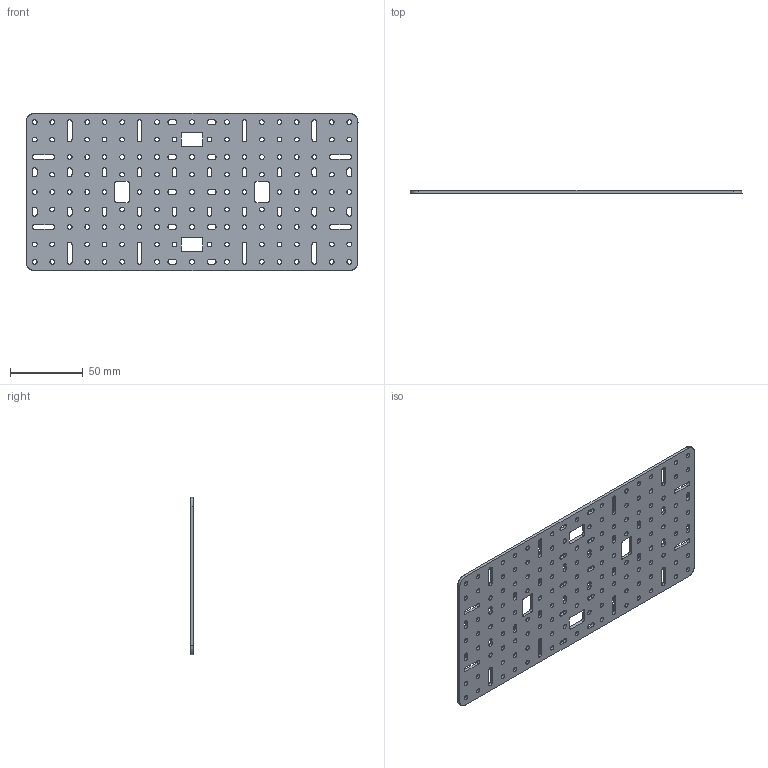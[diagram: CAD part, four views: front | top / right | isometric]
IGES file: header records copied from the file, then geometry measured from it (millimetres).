
Start section: SolidWorks IGES file using analytic representation for surfaces
Global section: file name: C:\Users\tahsi\Desktop\SMD\3D tasarýmlar\Building Set\9x19 Plate\9x19 Plate.IGS; native system: SolidWorks 2023; preprocessor: SolidWorks 2023; author: tahsi; date: 240613.132120; units: millimetre
Bounding box: 228 x 2 x 108 mm (x, y, z)
Surface area: 49767.1 mm2 (no closed solid volume)
Topology: 0 solids, 0 shells, 450 faces, 12240 edges, 12240 vertices
Faces by surface type: revolution 344, bspline 106
